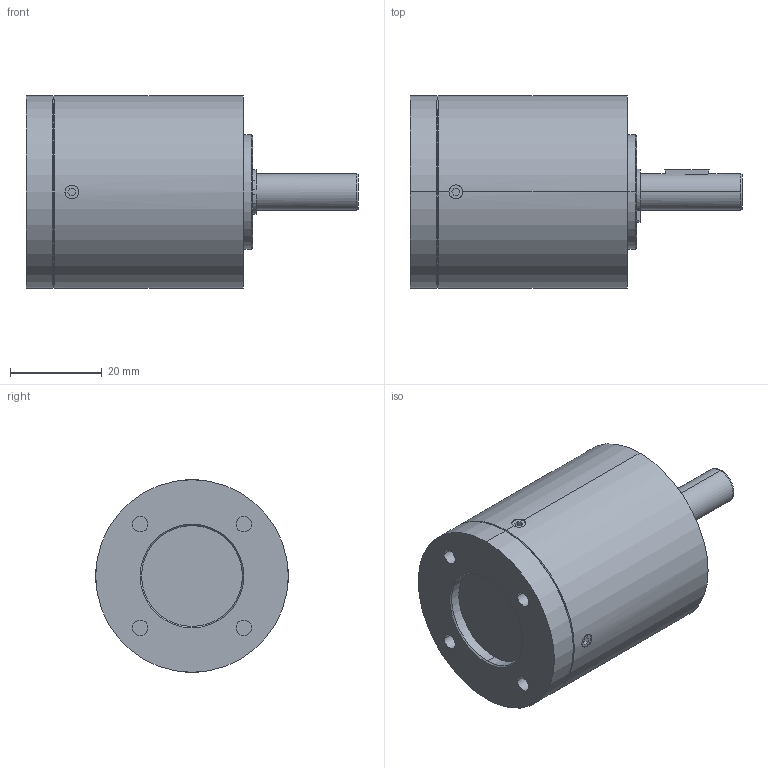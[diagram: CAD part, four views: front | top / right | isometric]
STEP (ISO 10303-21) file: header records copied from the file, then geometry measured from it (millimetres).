
FILE_DESCRIPTION((''),'2;1');
FILE_NAME('PLG42K_1ST_8X25','2005-08-26T',('Andrej.Schneider'),(''),'PRO/ENGINEER BY PARAMETRIC TECHNOLOGY CORPORATION, 2003490','PRO/ENGINEER BY PARAMETRIC TECHNOLOGY CORPORATION, 2003490','');
FILE_SCHEMA(('AUTOMOTIVE_DESIGN_CC2 { 1 2 10303 214 -1 1 5 2 }'));
Length unit declared in the file: millimetre
Products named in the file (1): PLG42K_1ST_8X25
Bounding box: 72.4 x 42 x 42 mm (x, y, z)
Volume: 62135.2 mm3; surface area: 14955.3 mm2
Topology: 1 solids, 9 shells, 241 faces, 596 edges, 380 vertices
Faces by surface type: cylinder 131, plane 68, cone 40, torus 2
Entity records: 8907 total; most frequent: DIRECTION 1356, CARTESIAN_POINT 1314, ORIENTED_EDGE 1128, EDGE_CURVE 580, AXIS2_PLACEMENT_3D 544, VERTEX_POINT 380, CIRCLE 302, EDGE_LOOP 280
